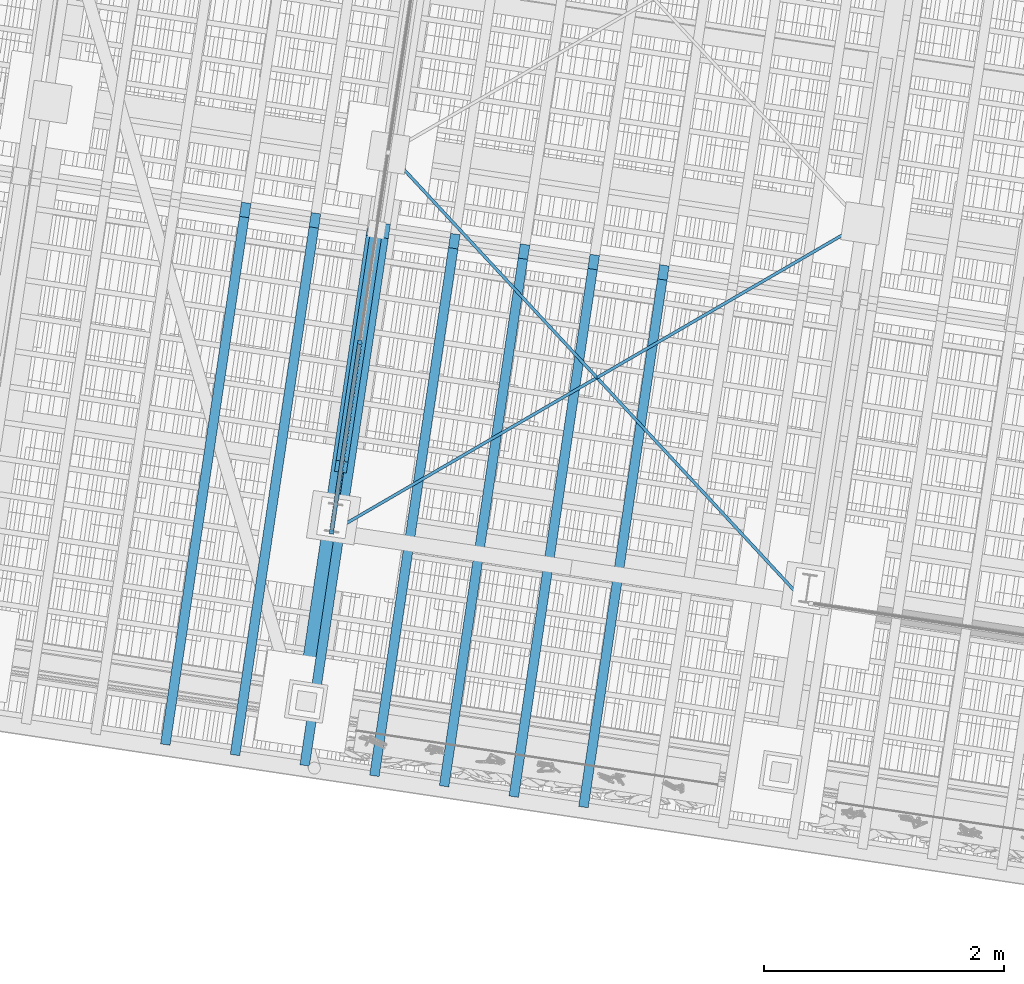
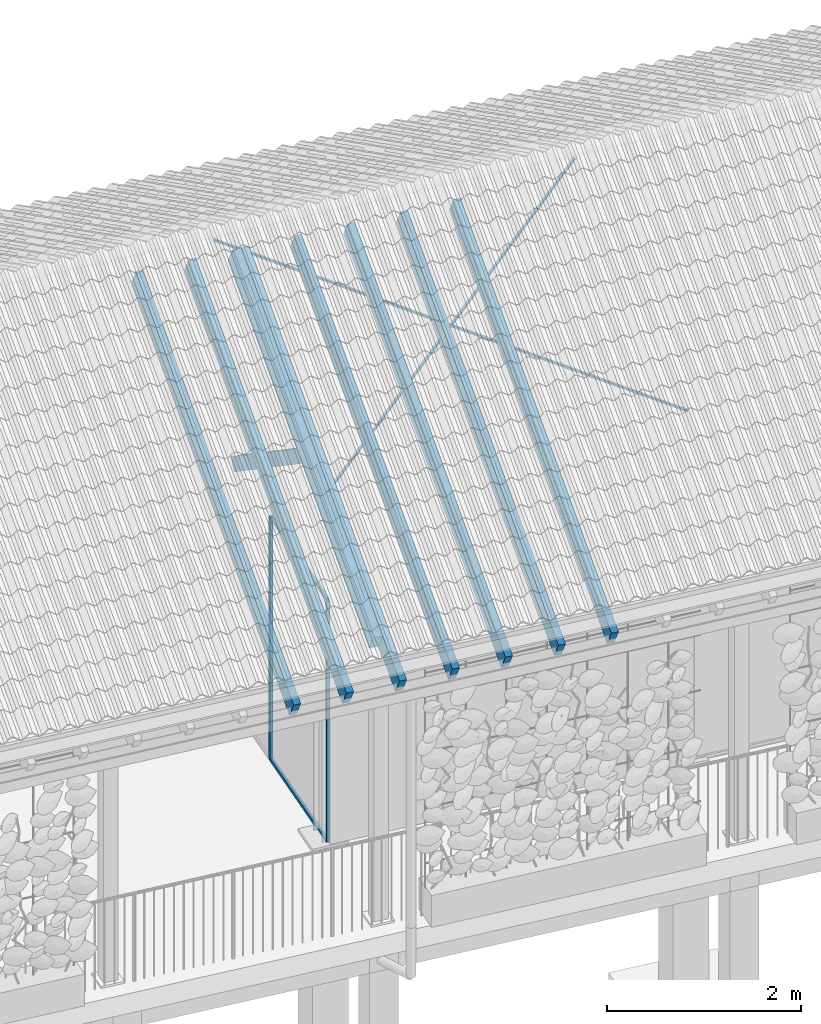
# One storey, part 22 of 131: 16 members, 1 element without a shape of its own.
"""IFC4 building model written with IfcOpenShell, lengths in metres."""

from ifc_helpers import new_model, si_unit, direction, frame, origin_with_axes, place, context, subcontext, project, spatial, rectangle, extrude, material, material_profile, profile_set, profile_usage, type_object, element, aggregate, save


model = new_model("IFC4")

# Units and contexts
model_context = context("Model", 3, precision=1e-05, world=origin_with_axes(), true_north=direction((0.0, 1.0)))
body_context = subcontext(model_context, "Body", "Model", "MODEL_VIEW")
ifc_project = project(units=[si_unit("VOLUMEUNIT", "CUBIC_METRE"), si_unit("LENGTHUNIT", "METRE"), si_unit("AREAUNIT", "SQUARE_METRE")], contexts=[model_context])

# Site, building, storey
site_placement = place(None, origin_with_axes())
site = spatial("IfcSite", under=ifc_project, at=site_placement, Name="Lares · Rua das Mercês · artigo 4771")
building_placement = place(site_placement, frame((15.0, 9.7, 15.8), z_axis=(0.0, 0.0, 1.0), x_axis=(0.989015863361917, -0.147809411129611, 0.0)))
building = spatial("IfcBuilding", under=site, at=building_placement, Name="Casa Sobreposta")
storey_placement = place(building_placement, origin_with_axes())
storey = spatial("IfcBuildingStorey", under=building, at=storey_placement, Name="00 · Habitação e estacionamento", Elevation=15.8)

# Members
ifc_material_1 = material(Name="Aço pintado / Stahl lackiert", Category="steel")
ifc_material_profile_1 = material_profile(ifc_material_1, rectangle(XDim=0.035, YDim=0.035))
ifc_profile_set_1 = profile_set([ifc_material_profile_1], Name="R0.035")
ifc_profile_usage_1 = profile_usage(ifc_profile_set_1)
member_type_1 = type_object("IfcMemberType", Name="R0.035 / steel", PredefinedType="NOTDEFINED", material=ifc_profile_set_1)
member_1_placement = place(storey_placement, origin_with_axes())
element("IfcMember", 1, at=member_1_placement, inside=storey, type_object=member_type_1, material=ifc_profile_usage_1, Name="Fachada poente integralmente envidraçada · módulo 1 · montante", context=body_context, shape_type="SweptSolid", body=[
    extrude(rectangle(XDim=0.035, YDim=0.035), origin_with_axes(), (0.0, 0.0, 1.0), 3.05),
])
ifc_profile_usage_2 = profile_usage(ifc_profile_set_1)
member_2_placement = place(storey_placement, frame((0.0, 1.6, 0.0), z_axis=(0.0, 0.0, 1.0), x_axis=(1.0, 0.0, 0.0)))
element("IfcMember", 2, at=member_2_placement, inside=storey, type_object=member_type_1, material=ifc_profile_usage_2, context=body_context, shape_type="SweptSolid", body=[
    extrude(rectangle(XDim=0.035, YDim=0.035), origin_with_axes(), (0.0, 0.0, 1.0), 3.05),
])
ifc_profile_usage_3 = profile_usage(ifc_profile_set_1)
member_3_placement = place(storey_placement, frame((0.0, 0.0, 0.0), z_axis=(0.0, 1.0, 0.0), x_axis=(1.0, 0.0, 0.0)))
element("IfcMember", 3, at=member_3_placement, inside=storey, type_object=member_type_1, material=ifc_profile_usage_3, Name="Fachada poente integralmente envidraçada · módulo 1 · travessa", context=body_context, shape_type="SweptSolid", body=[
    extrude(rectangle(XDim=0.035, YDim=0.035), origin_with_axes(), (0.0, 0.0, 1.0), 1.6),
])
ifc_profile_usage_4 = profile_usage(ifc_profile_set_1)
member_4_placement = place(storey_placement, frame((0.0, 0.0, 3.05), z_axis=(0.0, 1.0, 0.0), x_axis=(1.0, 0.0, 0.0)))
element("IfcMember", 4, at=member_4_placement, inside=storey, type_object=member_type_1, material=ifc_profile_usage_4, Name="Fachada poente integralmente envidraçada · módulo 1 · travessa", context=body_context, shape_type="SweptSolid", body=[
    extrude(rectangle(XDim=0.035, YDim=0.035), origin_with_axes(), (0.0, 0.0, 1.0), 1.6),
])
ifc_profile_usage_5 = profile_usage(ifc_profile_set_1)
member_5_placement = place(storey_placement, frame((0.0, 1.6, 0.0), z_axis=(0.0, 0.0, 1.0), x_axis=(1.0, 0.0, 0.0)))
element("IfcMember", 5, at=member_5_placement, inside=storey, type_object=member_type_1, material=ifc_profile_usage_5, context=body_context, shape_type="SweptSolid", body=[
    extrude(rectangle(XDim=0.035, YDim=0.035), origin_with_axes(), (0.0, 0.0, 1.0), 3.05),
])

# Roof, members
ifc_material_2 = material(Name="Madeira / Bauholz", Category="wood")
roof_placement = place(storey_placement, origin_with_axes())
roof = element("IfcRoof", 6, at=roof_placement, inside=storey, material=ifc_material_2, Name="Cobertura de telha · duas águas 30 graus", PredefinedType="GABLE_ROOF")
ifc_material_profile_2 = material_profile(ifc_material_2, rectangle(XDim=0.16, YDim=0.24))
ifc_profile_set_2 = profile_set([ifc_material_profile_2], Name="TIMBER0.160x0.240")
ifc_profile_usage_6 = profile_usage(ifc_profile_set_2)
member_type_2 = type_object("IfcMemberType", Name="TIMBER0.160x0.240 / timber", PredefinedType="NOTDEFINED", material=ifc_profile_set_2)
member_6_placement = place(roof_placement, frame((0.0, -1.43, 3.44635462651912), z_axis=(0.0, 0.866025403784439, 0.5), x_axis=(1.0, 0.0, 0.0)))
member_6 = element("IfcMember", 7, at=member_6_placement, type_object=member_type_2, material=ifc_profile_usage_6, Name="Tesoura · perna", context=body_context, shape_type="SweptSolid", body=[
    extrude(rectangle(XDim=0.16, YDim=0.24), origin_with_axes(), (0.0, 0.0, 1.0), 4.59570814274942),
])
ifc_material_profile_3 = material_profile(ifc_material_2, rectangle(XDim=0.1, YDim=0.16))
ifc_profile_set_3 = profile_set([ifc_material_profile_3], Name="TIMBER0.100x0.160")
ifc_profile_usage_7 = profile_usage(ifc_profile_set_3)
member_type_3 = type_object("IfcMemberType", Name="TIMBER0.100x0.160 / timber", PredefinedType="NOTDEFINED", material=ifc_profile_set_3)
member_7_placement = place(roof_placement, frame((0.0, 2.55, 3.1), z_axis=(0.0, -0.816439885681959, 0.577430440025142), x_axis=(-1.0, 0.0, 0.0)))
member_7 = element("IfcMember", 8, at=member_7_placement, type_object=member_type_3, material=ifc_profile_usage_7, Name="Tesoura · escora", context=body_context, shape_type="SweptSolid", body=[
    extrude(rectangle(XDim=0.1, YDim=0.16), origin_with_axes(), (0.0, 0.0, 1.0), 2.44965984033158),
])
ifc_material_profile_4 = material_profile(ifc_material_2, rectangle(XDim=0.08, YDim=0.24))
ifc_profile_set_4 = profile_set([ifc_material_profile_4], Name="TIMBER0.080x0.240")
ifc_profile_usage_8 = profile_usage(ifc_profile_set_4)
member_type_4 = type_object("IfcMemberType", Name="TIMBER0.080x0.240 / timber", PredefinedType="NOTDEFINED", material=ifc_profile_set_4)
member_8_placement = place(roof_placement, frame((-1.10909090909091, -1.9, 3.181), z_axis=(0.0, 0.866025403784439, 0.5), x_axis=(1.0, 0.0, 0.0)))
member_8 = element("IfcMember", 9, at=member_8_placement, type_object=member_type_4, material=ifc_profile_usage_8, Name="Cobertura · caibro", context=body_context, shape_type="SweptSolid", body=[
    extrude(rectangle(XDim=0.08, YDim=0.24), origin_with_axes(), (0.0, 0.0, 1.0), 5.13841739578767),
])
ifc_profile_usage_9 = profile_usage(ifc_profile_set_4)
member_9_placement = place(roof_placement, frame((-0.521212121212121, -1.9, 3.181), z_axis=(0.0, 0.866025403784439, 0.5), x_axis=(1.0, 0.0, 0.0)))
member_9 = element("IfcMember", 10, at=member_9_placement, type_object=member_type_4, material=ifc_profile_usage_9, Name="Cobertura · caibro", context=body_context, shape_type="SweptSolid", body=[
    extrude(rectangle(XDim=0.08, YDim=0.24), origin_with_axes(), (0.0, 0.0, 1.0), 5.13841739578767),
])
ifc_profile_usage_10 = profile_usage(ifc_profile_set_4)
member_10_placement = place(roof_placement, frame((0.0666666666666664, -1.9, 3.181), z_axis=(0.0, 0.866025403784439, 0.5), x_axis=(1.0, 0.0, 0.0)))
member_10 = element("IfcMember", 11, at=member_10_placement, type_object=member_type_4, material=ifc_profile_usage_10, Name="Cobertura · caibro", context=body_context, shape_type="SweptSolid", body=[
    extrude(rectangle(XDim=0.08, YDim=0.24), origin_with_axes(), (0.0, 0.0, 1.0), 5.13841739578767),
])
ifc_profile_usage_11 = profile_usage(ifc_profile_set_4)
member_11_placement = place(roof_placement, frame((0.654545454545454, -1.9, 3.181), z_axis=(0.0, 0.866025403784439, 0.5), x_axis=(1.0, 0.0, 0.0)))
member_11 = element("IfcMember", 12, at=member_11_placement, type_object=member_type_4, material=ifc_profile_usage_11, Name="Cobertura · caibro", context=body_context, shape_type="SweptSolid", body=[
    extrude(rectangle(XDim=0.08, YDim=0.24), origin_with_axes(), (0.0, 0.0, 1.0), 5.13841739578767),
])
ifc_profile_usage_12 = profile_usage(ifc_profile_set_4)
member_12_placement = place(roof_placement, frame((1.24242424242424, -1.9, 3.181), z_axis=(0.0, 0.866025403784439, 0.5), x_axis=(1.0, 0.0, 0.0)))
member_12 = element("IfcMember", 13, at=member_12_placement, type_object=member_type_4, material=ifc_profile_usage_12, Name="Cobertura · caibro", context=body_context, shape_type="SweptSolid", body=[
    extrude(rectangle(XDim=0.08, YDim=0.24), origin_with_axes(), (0.0, 0.0, 1.0), 5.13841739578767),
])
ifc_profile_usage_13 = profile_usage(ifc_profile_set_4)
member_13_placement = place(roof_placement, frame((1.83030303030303, -1.9, 3.181), z_axis=(0.0, 0.866025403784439, 0.5), x_axis=(1.0, 0.0, 0.0)))
member_13 = element("IfcMember", 14, at=member_13_placement, type_object=member_type_4, material=ifc_profile_usage_13, Name="Cobertura · caibro", context=body_context, shape_type="SweptSolid", body=[
    extrude(rectangle(XDim=0.08, YDim=0.24), origin_with_axes(), (0.0, 0.0, 1.0), 5.13841739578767),
])
ifc_profile_usage_14 = profile_usage(ifc_profile_set_4)
member_14_placement = place(roof_placement, frame((2.41818181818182, -1.9, 3.181), z_axis=(0.0, 0.866025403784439, 0.5), x_axis=(1.0, 0.0, 0.0)))
member_14 = element("IfcMember", 15, at=member_14_placement, type_object=member_type_4, material=ifc_profile_usage_14, Name="Cobertura · caibro", context=body_context, shape_type="SweptSolid", body=[
    extrude(rectangle(XDim=0.08, YDim=0.24), origin_with_axes(), (0.0, 0.0, 1.0), 5.13841739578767),
])
ifc_material_3 = material(Name="Aço galvanizado / Stahl verzinkt", Category="steel")
ifc_material_profile_5 = material_profile(ifc_material_3, rectangle(XDim=0.025, YDim=0.025))
ifc_profile_set_5 = profile_set([ifc_material_profile_5], Name="R0.025")
ifc_profile_usage_15 = profile_usage(ifc_profile_set_5)
member_type_5 = type_object("IfcMemberType", Name="R0.025 / galvanized", PredefinedType="NOTDEFINED", material=ifc_profile_set_5)
member_15_placement = place(roof_placement, frame((0.0, 0.0, 4.39896551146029), z_axis=(0.763557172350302, 0.610845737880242, 0.209398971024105), x_axis=(0.624695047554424, -0.78086880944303, 0.0)))
member_15 = element("IfcMember", 16, at=member_15_placement, type_object=member_type_5, material=ifc_profile_usage_15, Name="Cobertura · fita de contraventamento", context=body_context, shape_type="SweptSolid", body=[
    extrude(rectangle(XDim=0.025, YDim=0.025), origin_with_axes(), (0.0, 0.0, 1.0), 5.2386384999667),
])
ifc_profile_usage_16 = profile_usage(ifc_profile_set_5)
member_16_placement = place(roof_placement, frame((0.0, 3.2, 5.49593102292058), z_axis=(0.763557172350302, -0.610845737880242, -0.209398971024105), x_axis=(-0.624695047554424, -0.78086880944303, 0.0)))
member_16 = element("IfcMember", 17, at=member_16_placement, type_object=member_type_5, material=ifc_profile_usage_16, Name="Cobertura · fita de contraventamento", context=body_context, shape_type="SweptSolid", body=[
    extrude(rectangle(XDim=0.025, YDim=0.025), origin_with_axes(), (0.0, 0.0, 1.0), 5.2386384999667),
])
aggregate(roof, [member_6, member_7, member_8, member_9, member_10, member_11, member_12, member_13, member_14, member_15, member_16])

save(model, "model.ifc")
